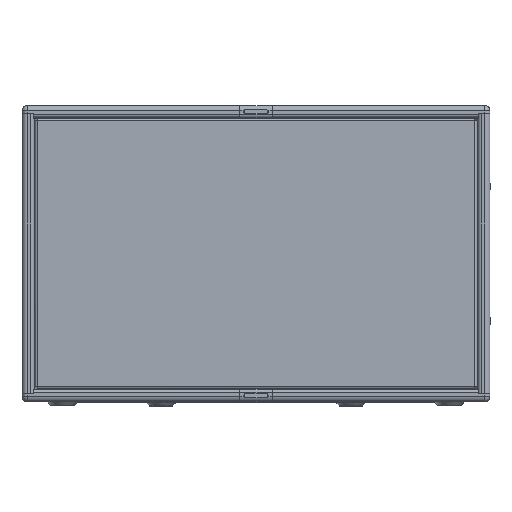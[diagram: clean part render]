
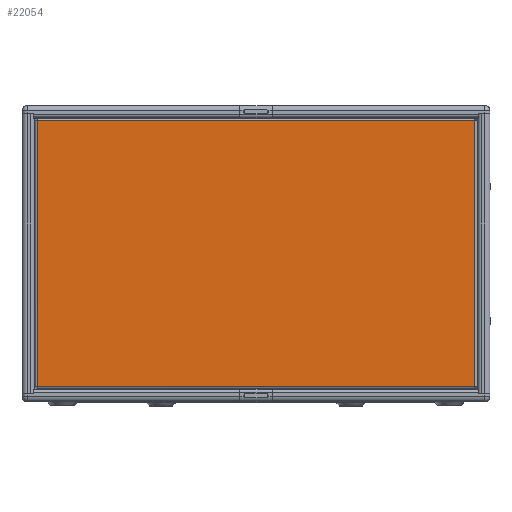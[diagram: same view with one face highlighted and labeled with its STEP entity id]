
A CAD part, top view. The second image highlights one B-rep face of the part: STEP entity #22054.
In plain terms, the highlighted planar face has unit normal (0, 0, 1) as drawn and (0, 1, 0) by its records, which use the part's own axes.
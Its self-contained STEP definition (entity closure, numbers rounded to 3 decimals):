
#168 = ORIENTED_EDGE ( 'NONE', *, *, #11826, .T. ) ;
#494 = CARTESIAN_POINT ( 'NONE',  ( 2.707, 2., -3. ) ) ;
#918 = CARTESIAN_POINT ( 'NONE',  ( 545.293, 2., -332. ) ) ;
#1203 = ORIENTED_EDGE ( 'NONE', *, *, #11264, .T. ) ;
#2025 = VECTOR ( 'NONE', #4444, 1000. ) ;
#2964 = CARTESIAN_POINT ( 'NONE',  ( 3., 2., -332. ) ) ;
#4237 = EDGE_CURVE ( 'NONE', #25680, #11547, #16293, .T. ) ;
#4444 = DIRECTION ( 'NONE',  ( -1., 0., 0. ) ) ;
#4484 = VERTEX_POINT ( 'NONE', #25637 ) ;
#5497 = AXIS2_PLACEMENT_3D ( 'NONE', #29753, #14848, #7558 ) ;
#5721 = EDGE_CURVE ( 'NONE', #4484, #25680, #22694, .T. ) ;
#7087 = FACE_OUTER_BOUND ( 'NONE', #19671, .T. ) ;
#7558 = DIRECTION ( 'NONE',  ( 0., 0., -1. ) ) ;
#7574 = ORIENTED_EDGE ( 'NONE', *, *, #5721, .T. ) ;
#9623 = ORIENTED_EDGE ( 'NONE', *, *, #4237, .T. ) ;
#10365 = DIRECTION ( 'NONE',  ( 1., 0., 0. ) ) ;
#10874 = CARTESIAN_POINT ( 'NONE',  ( 545., 2., -332. ) ) ;
#11264 = EDGE_CURVE ( 'NONE', #11547, #15377, #24062, .T. ) ;
#11547 = VERTEX_POINT ( 'NONE', #10874 ) ;
#11826 = EDGE_CURVE ( 'NONE', #15377, #4484, #21728, .T. ) ;
#14848 = DIRECTION ( 'NONE',  ( 0., -1., 0. ) ) ;
#15377 = VERTEX_POINT ( 'NONE', #2964 ) ;
#15900 = VECTOR ( 'NONE', #10365, 1000. ) ;
#16293 = LINE ( 'NONE', #26834, #30038 ) ;
#16400 = CARTESIAN_POINT ( 'NONE',  ( 545., 2., -3. ) ) ;
#18730 = DIRECTION ( 'NONE',  ( 0., 0., -1. ) ) ;
#19671 = EDGE_LOOP ( 'NONE', ( #1203, #168, #7574, #9623 ) ) ;
#19866 = PLANE ( 'NONE',  #5497 ) ;
#21728 = LINE ( 'NONE', #31607, #29975 ) ;
#22054 = ADVANCED_FACE ( 'NONE', ( #7087 ), #19866, .F. ) ;
#22694 = LINE ( 'NONE', #494, #15900 ) ;
#24062 = LINE ( 'NONE', #918, #2025 ) ;
#25637 = CARTESIAN_POINT ( 'NONE',  ( 3., 2., -3. ) ) ;
#25680 = VERTEX_POINT ( 'NONE', #16400 ) ;
#26834 = CARTESIAN_POINT ( 'NONE',  ( 545., 2., -2.707 ) ) ;
#29182 = DIRECTION ( 'NONE',  ( 0., 0., 1. ) ) ;
#29753 = CARTESIAN_POINT ( 'NONE',  ( 0., 2., -335. ) ) ;
#29975 = VECTOR ( 'NONE', #29182, 1000. ) ;
#30038 = VECTOR ( 'NONE', #18730, 1000. ) ;
#31607 = CARTESIAN_POINT ( 'NONE',  ( 3., 2., -332.293 ) ) ;
